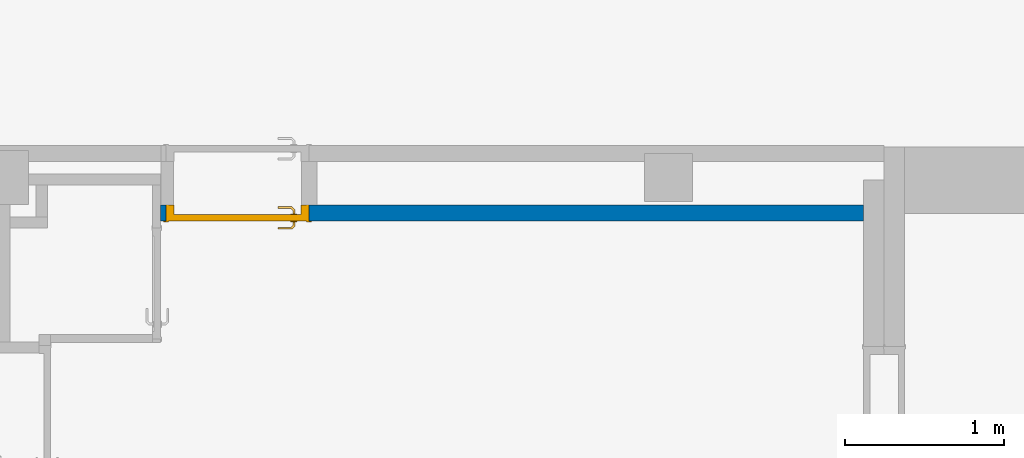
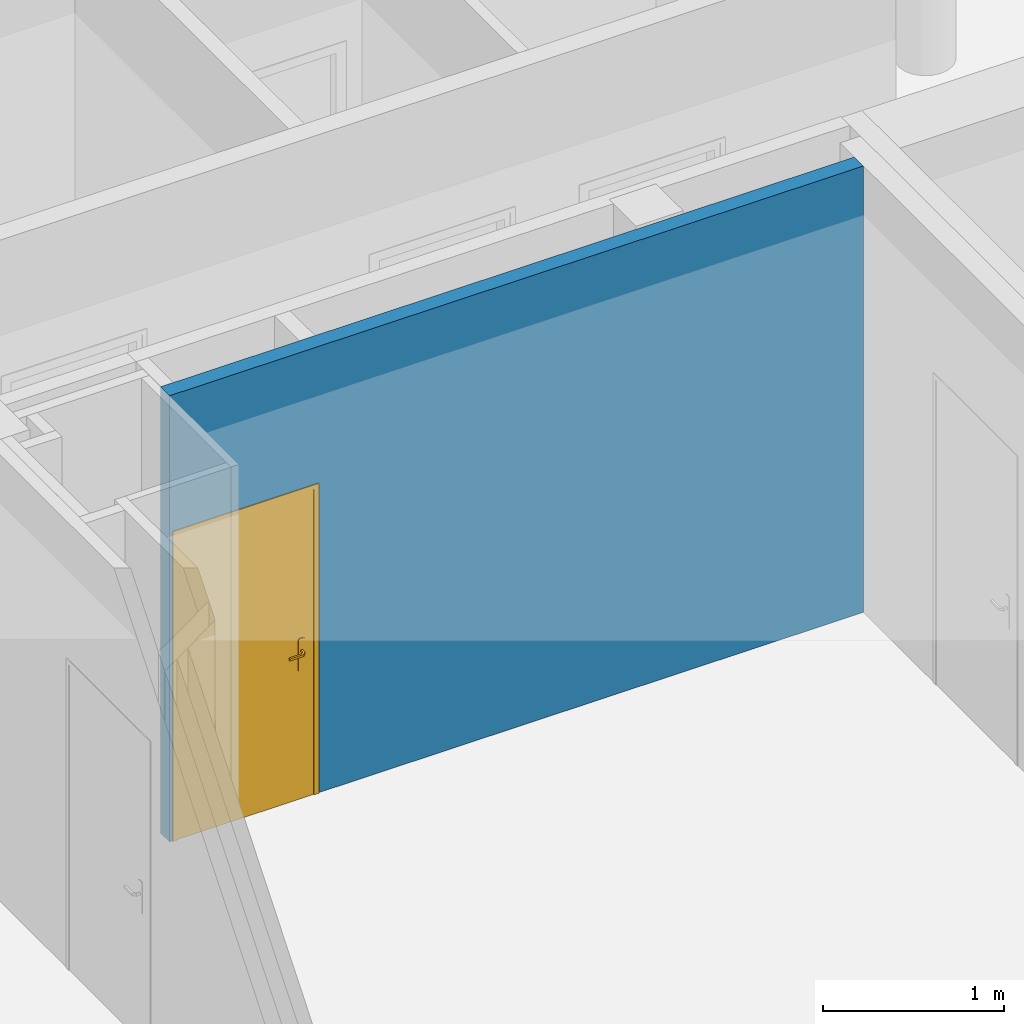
# One storey, part 40 of 97: 1 door, 1 wall, 1 opening.
"""IFC4 building model written with IfcOpenShell, lengths in metres."""

from ifc_helpers import new_model, entity, si_unit, converted_unit, derived_unit, direction, frame, origin, place, context, subcontext, project, spatial, indexed_curve, outline, extrude, polygons, source, transform, mapped, material, material_list, layer, layer_set, constituent, constituent_set, type_object, type_shapes, element, fill, save


model = new_model("IFC4")

# Units and contexts
model_context = context("Model", 3, precision=1e-05, world=origin(), true_north=direction((6.12303176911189e-17, 1.0)))
body_context = subcontext(model_context, "Body", "Model", "MODEL_VIEW")
ifc_project = project(units=[si_unit("LENGTHUNIT", "METRE"), si_unit("AREAUNIT", "SQUARE_METRE"), si_unit("VOLUMEUNIT", "CUBIC_METRE"), converted_unit("PLANEANGLEUNIT", "DEGREE", entity("IfcRatioMeasure", 0.0174532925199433), si_unit("PLANEANGLEUNIT", "RADIAN"), dimensions=[0, 0, 0, 0, 0, 0, 0]), si_unit("MASSUNIT", "GRAM", prefix="KILO"), derived_unit("MASSDENSITYUNIT", [(si_unit("MASSUNIT", "GRAM", prefix="KILO"), 1), (si_unit("LENGTHUNIT", "METRE"), -3)]), derived_unit("MOMENTOFINERTIAUNIT", [(si_unit("LENGTHUNIT", "METRE"), 4)]), si_unit("TIMEUNIT", "SECOND"), si_unit("FREQUENCYUNIT", "HERTZ"), si_unit("THERMODYNAMICTEMPERATUREUNIT", "DEGREE_CELSIUS"), derived_unit("THERMALTRANSMITTANCEUNIT", [(si_unit("MASSUNIT", "GRAM", prefix="KILO"), 1), (si_unit("THERMODYNAMICTEMPERATUREUNIT", "KELVIN"), -1), (si_unit("TIMEUNIT", "SECOND"), -3)]), derived_unit("VOLUMETRICFLOWRATEUNIT", [(si_unit("LENGTHUNIT", "METRE"), 3), (si_unit("TIMEUNIT", "SECOND"), -1)]), si_unit("ELECTRICCURRENTUNIT", "AMPERE"), si_unit("ELECTRICVOLTAGEUNIT", "VOLT"), si_unit("POWERUNIT", "WATT"), si_unit("FORCEUNIT", "NEWTON", prefix="KILO"), si_unit("ILLUMINANCEUNIT", "LUX"), si_unit("LUMINOUSFLUXUNIT", "LUMEN"), si_unit("LUMINOUSINTENSITYUNIT", "CANDELA"), derived_unit("USERDEFINED", [(si_unit("MASSUNIT", "GRAM", prefix="KILO"), -1), (si_unit("LENGTHUNIT", "METRE"), -2), (si_unit("TIMEUNIT", "SECOND"), 3), (si_unit("LUMINOUSFLUXUNIT", "LUMEN"), 1)]), derived_unit("LINEARVELOCITYUNIT", [(si_unit("LENGTHUNIT", "METRE"), 1), (si_unit("TIMEUNIT", "SECOND"), -1)]), si_unit("PRESSUREUNIT", "PASCAL"), derived_unit("USERDEFINED", [(si_unit("LENGTHUNIT", "METRE"), -2), (si_unit("MASSUNIT", "GRAM", prefix="KILO"), 1), (si_unit("TIMEUNIT", "SECOND"), -2)]), derived_unit("LINEARFORCEUNIT", [(si_unit("MASSUNIT", "GRAM", prefix="KILO"), 1), (si_unit("LENGTHUNIT", "METRE"), 1), (si_unit("TIMEUNIT", "SECOND"), -2), (si_unit("LENGTHUNIT", "METRE"), -1)]), derived_unit("PLANARFORCEUNIT", [(si_unit("MASSUNIT", "GRAM", prefix="KILO"), 1), (si_unit("LENGTHUNIT", "METRE"), 1), (si_unit("TIMEUNIT", "SECOND"), -2), (si_unit("LENGTHUNIT", "METRE"), -2)])], contexts=[model_context])

# Site, building, storey
site_placement = place(None, origin())
site = spatial("IfcSite", under=ifc_project, at=site_placement, Name="Default", CompositionType="ELEMENT")
building_placement = place(site_placement, origin())
building = spatial("IfcBuilding", under=site, at=building_placement, Name="HOTEL CONSULAIRE BOULOGNE SUR MER", CompositionType="ELEMENT")
storey_placement = place(building_placement, frame((0.0, 0.0, 3.62152697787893)))
storey = spatial("IfcBuildingStorey", under=building, at=storey_placement, Name="Niveau 1", CompositionType="ELEMENT", Elevation=3.62152697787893)

# Wall, opening, door
ifc_material_1 = material(Name="Mur par défaut", Category="Divers")
ifc_layer = layer(ifc_material_1, 0.1, Name="Mur par défaut", Category="Divers")
ifc_layer_set = layer_set([ifc_layer], Name="Mur de base:Générique - Int. 100 mm")
wall_type = type_object("IfcWallType", Name="Mur de base:Générique - Int. 100 mm", PredefinedType="NOTDEFINED", material=ifc_layer_set)
wall_placement = place(storey_placement, frame((4.1985800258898, -24.240691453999, 0.0), z_axis=(0.0, 0.0, 1.0), x_axis=(-1.0, 0.0, 0.0)))
wall = element("IfcWall", 1, at=wall_placement, inside=storey, type_object=wall_type, material=ifc_layer_set, Name="Mur de base:Générique - Int. 100 mm", ObjectType="Mur de base:Générique - Int. 100 mm", PredefinedType="NOTDEFINED", context=body_context, shape_type="Tessellation", body=[
    polygons([(4.42601369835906, -0.0499999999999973, 0.0), (4.39200000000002, -0.0499999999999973, 0.0), (4.39200000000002, 0.0500000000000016, 0.0), (4.42601369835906, 0.0500000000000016, 0.0), (4.42601369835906, -0.0499999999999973, 3.01021454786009), (4.42401369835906, -0.0499999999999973, 3.01021454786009), (4.34401369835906, -0.0499999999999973, 3.01021454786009), (3.54, -0.0499999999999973, 3.01021454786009), (3.44, -0.0499999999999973, 3.01021454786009), (5.13519157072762e-19, -0.0499999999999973, 3.01021454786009), (5.13519157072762e-19, -0.0499999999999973, 0.0), (3.49200000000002, -0.0499999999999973, 0.0), (3.49200000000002, -0.0499999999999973, 2.075), (4.39200000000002, -0.0499999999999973, 2.075), (-3.6654746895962e-16, 0.0500000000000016, 3.01021454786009), (4.42601369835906, 0.0500000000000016, 3.01021454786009), (4.39200000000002, 0.0500000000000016, 2.075), (3.49200000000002, 0.0500000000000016, 2.075), (3.49200000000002, 0.0500000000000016, 0.0), (-3.6654746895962e-16, 0.0500000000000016, 0.0)], [[[2, 3, 4, 1]], [[18, 17, 14, 13]], [[12, 11, 20, 19]], [[11, 12, 13, 14, 2, 1, 5, 6, 7, 8, 9, 10]], [[4, 3, 17, 18, 19, 20, 15, 16]], [[7, 6, 5, 16, 15, 10, 9, 8]], [[20, 11, 10, 15]], [[17, 3, 2, 14]], [[18, 13, 12, 19]], [[1, 4, 16, 5]]], closed=True),
])
opening_placement = place(wall_placement, frame((3.49200000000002, -0.0499999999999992, 0.0)))
opening = element("IfcOpeningElement", 2, at=opening_placement, cuts=wall, Name="Int. Simple:PP (0.83m x 2.04m):1", ObjectType="Opening", PredefinedType="OPENING", context=body_context, shape_type="SweptSolid", body=[
    extrude(outline(indexed_curve([(0.0, 0.9), (0.0, 0.0), (2.075, 0.0), (2.075, 0.9), (0.0, 0.9)], self_intersect=False)), frame((0.0, 0.0, 0.0), z_axis=(0.0, 1.0, 0.0), x_axis=(0.0, 0.0, 1.0)), (0.0, 0.0, 1.0), 0.1),
])
ifc_material_2 = material(Name="Finition Peinture - Blanc satiné", Category="Peinture")
ifc_constituent_1 = constituent(ifc_material_2, Name="Finition Peinture - Blanc satiné", Category="Matériaux")
ifc_material_3 = material(Name="Bois - Panneau de porte", Category="Bois")
ifc_constituent_2 = constituent(ifc_material_3, Name="Bois - Panneau de porte", Category="Matériaux")
ifc_material_4 = material(Name="Bois - Cadre de porte", Category="Bois")
ifc_constituent_3 = constituent(ifc_material_4, Name="Bois - Cadre de porte", Category="Matériaux")
ifc_constituent_set = constituent_set(constituents=[ifc_constituent_1, ifc_constituent_2, ifc_constituent_3], Name="MaterialConstituentSet")
ifc_material_list = material_list([ifc_material_4, ifc_material_3, ifc_material_4, ifc_material_2])
door_type = type_object("IfcDoorType", Name="Int. Simple:PP (0.83m x 2.04m)", OperationType="NOTDEFINED", PredefinedType="DOOR", material=ifc_material_list)
shared_shape = source(origin(), body_context, "Body", "Tessellation", [
    polygons([(0.895000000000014, -0.00500000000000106, 0.870000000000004), (0.895000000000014, -0.00500000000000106, 1.08), (0.885352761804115, -0.00500000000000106, 1.08399601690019), (0.875000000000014, -0.00500000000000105, 1.08535898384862), (0.864647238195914, -0.00500000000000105, 1.08399601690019), (0.855000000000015, -0.00500000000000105, 1.08), (0.855000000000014, -0.00500000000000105, 0.870000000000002), (0.864647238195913, -0.00500000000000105, 0.866003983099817), (0.875000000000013, -0.00500000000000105, 0.86464101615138), (0.885352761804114, -0.00500000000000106, 0.866003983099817), (0.895000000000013, -1.06594733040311e-15, 0.870000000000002), (0.885352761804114, -1.06594733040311e-15, 0.866003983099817), (0.875000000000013, -1.05748743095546e-15, 0.86464101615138), (0.864647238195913, -1.05748743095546e-15, 0.866003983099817), (0.855000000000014, -1.04902753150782e-15, 0.870000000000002), (0.855000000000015, -1.04902753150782e-15, 1.08), (0.864647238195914, -1.05748743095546e-15, 1.08399601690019), (0.875000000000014, -1.05748743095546e-15, 1.08535898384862), (0.885352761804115, -1.06594733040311e-15, 1.08399601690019), (0.895000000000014, -1.06594733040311e-15, 1.08)], [[[1, 2, 3, 4, 5, 6, 7, 8, 9, 10]], [[20, 11, 12, 13, 14, 15, 16, 17, 18, 19]], [[10, 12, 11, 1]], [[9, 13, 12, 10]], [[8, 14, 13, 9]], [[8, 7, 15, 14]], [[15, 7, 6, 16]], [[5, 17, 16, 6]], [[4, 18, 17, 5]], [[3, 19, 18, 4]], [[3, 2, 20, 19]], [[11, 20, 2, 1]]], closed=True),
    polygons([(0.855000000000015, 0.0399999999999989, 1.08), (0.855000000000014, 0.0399999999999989, 0.870000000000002), (0.864647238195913, 0.0399999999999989, 0.866003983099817), (0.875000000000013, 0.0399999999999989, 0.86464101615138), (0.885352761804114, 0.0399999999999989, 0.866003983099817), (0.895000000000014, 0.0399999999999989, 0.870000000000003), (0.895000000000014, 0.0399999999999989, 1.08), (0.885352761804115, 0.0399999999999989, 1.08399601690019), (0.875000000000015, 0.0399999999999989, 1.08535898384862), (0.864647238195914, 0.0399999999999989, 1.08399601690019), (0.855000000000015, 0.0449999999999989, 1.08), (0.864647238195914, 0.0449999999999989, 1.08399601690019), (0.875000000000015, 0.0449999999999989, 1.08535898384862), (0.885352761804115, 0.0449999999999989, 1.08399601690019), (0.895000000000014, 0.0449999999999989, 1.08), (0.895000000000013, 0.0449999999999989, 0.870000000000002), (0.885352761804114, 0.0449999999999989, 0.866003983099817), (0.875000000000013, 0.0449999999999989, 0.86464101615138), (0.864647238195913, 0.0449999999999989, 0.866003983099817), (0.855000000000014, 0.0449999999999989, 0.870000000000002)], [[[6, 7, 8, 9, 10, 1, 2, 3, 4, 5]], [[13, 14, 15, 16, 17, 18, 19, 20, 11, 12]], [[10, 12, 11, 1]], [[9, 13, 12, 10]], [[8, 14, 13, 9]], [[8, 7, 15, 14]], [[16, 15, 7, 6]], [[5, 17, 16, 6]], [[4, 18, 17, 5]], [[3, 19, 18, 4]], [[3, 2, 20, 19]], [[20, 2, 1, 11]]], closed=True),
    polygons([(0.881000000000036, -0.00500000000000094, 1.00699999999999), (0.881000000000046, -0.00500000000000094, 0.992999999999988), (0.877025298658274, -0.00500000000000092, 0.99221955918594), (0.872974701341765, -0.0050000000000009, 0.992219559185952), (0.868999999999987, -0.00500000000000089, 0.993000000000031), (0.868999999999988, -0.00500000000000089, 1.007), (0.872974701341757, -0.0050000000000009, 1.00778044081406), (0.877025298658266, -0.00500000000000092, 1.00778044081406), (0.868999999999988, -0.0276803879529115, 1.007), (0.872974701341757, -0.0293267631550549, 1.00778044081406), (0.877025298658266, -0.0310045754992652, 1.00778044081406), (0.881000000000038, -0.0326509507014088, 1.007), (0.868999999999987, -0.0276803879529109, 0.993000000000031), (0.881000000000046, -0.0326509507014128, 0.992999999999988), (0.877025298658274, -0.0310045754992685, 0.99221955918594), (0.872974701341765, -0.0293267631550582, 0.992219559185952), (0.85765222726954, -0.0390281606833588, 1.007), (0.859298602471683, -0.0430028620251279, 1.00778044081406), (0.860976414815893, -0.0470534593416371, 1.00778044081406), (0.862622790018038, -0.051028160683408, 1.007), (0.857652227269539, -0.0390281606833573, 0.993000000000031), (0.862622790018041, -0.0510281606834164, 0.992999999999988), (0.860976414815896, -0.0470534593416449, 0.99221955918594), (0.859298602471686, -0.0430028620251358, 0.992219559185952), (0.774981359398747, -0.0510281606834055, 1.007), (0.774981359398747, -0.0470534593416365, 1.00778044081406), (0.774981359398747, -0.0430028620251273, 1.00778044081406), (0.774981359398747, -0.0390281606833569, 1.00699999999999), (0.774981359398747, -0.0390281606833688, 0.993000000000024), (0.774981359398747, -0.0430028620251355, 0.992219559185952), (0.774981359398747, -0.0470534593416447, 0.99221955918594), (0.774981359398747, -0.0510281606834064, 0.992999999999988), (0.822692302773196, -0.051028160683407, 1.007), (0.81713998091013, -0.045028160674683, 1.0078786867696), (0.816316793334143, -0.039028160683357, 1.007), (0.822692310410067, -0.0510281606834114, 0.992999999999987), (0.817139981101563, -0.0450281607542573, 0.992121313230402), (0.816316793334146, -0.0390281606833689, 0.993000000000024)], [[[7, 8, 1, 2, 3, 4, 5, 6]], [[17, 21, 38, 29, 28, 35]], [[1, 8, 11, 12]], [[8, 7, 10, 18, 19, 11]], [[7, 6, 9, 10]], [[13, 9, 6, 5]], [[25, 26, 27, 28, 29, 30, 31, 32]], [[4, 16, 13, 5]], [[4, 3, 15, 23, 24, 16]], [[2, 14, 15, 3]], [[12, 14, 2, 1]], [[12, 11, 19, 20]], [[10, 9, 17, 18]], [[21, 17, 9, 13]], [[13, 16, 24, 21]], [[15, 14, 22, 23]], [[20, 22, 14, 12]], [[34, 26, 33]], [[33, 26, 25]], [[33, 20, 19]], [[18, 35, 34]], [[35, 18, 17]], [[28, 27, 35]], [[34, 27, 26]], [[34, 35, 27]], [[34, 33, 19]], [[18, 34, 19]], [[37, 30, 38]], [[31, 37, 36]], [[24, 38, 21]], [[30, 29, 38]], [[31, 36, 32]], [[36, 23, 22]], [[37, 23, 36]], [[37, 24, 23]], [[37, 38, 24]], [[30, 37, 31]], [[22, 20, 33, 25, 32, 36]]], closed=True),
    polygons([(0.868999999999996, 0.0449999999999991, 0.993000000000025), (0.872974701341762, 0.0449999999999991, 0.992219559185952), (0.877025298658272, 0.0449999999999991, 0.99221955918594), (0.881000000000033, 0.044999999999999, 0.992999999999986), (0.881000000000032, 0.044999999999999, 1.007), (0.877025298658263, 0.0449999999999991, 1.00778044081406), (0.872974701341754, 0.0449999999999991, 1.00778044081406), (0.868999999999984, 0.0449999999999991, 1.007), (0.868999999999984, 0.067485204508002, 1.007), (0.868999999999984, 0.0674852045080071, 0.993000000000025), (0.881000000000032, 0.0724557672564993, 1.007), (0.877025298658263, 0.070809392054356, 1.00778044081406), (0.872974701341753, 0.0691315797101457, 1.00778044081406), (0.881000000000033, 0.0724557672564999, 0.992999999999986), (0.872974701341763, 0.0691315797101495, 0.992219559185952), (0.877025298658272, 0.0708093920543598, 0.99221955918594), (0.857514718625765, 0.0789704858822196, 1.007), (0.857514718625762, 0.0789704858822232, 0.993000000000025), (0.862485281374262, 0.0909704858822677, 1.007), (0.860838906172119, 0.0869957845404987, 1.00778044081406), (0.859161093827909, 0.0829451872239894, 1.00778044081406), (0.862485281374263, 0.0909704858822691, 0.992999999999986), (0.859161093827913, 0.0829451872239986, 0.992219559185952), (0.860838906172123, 0.0869957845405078, 0.99221955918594), (0.77495421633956, 0.0789704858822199, 0.993000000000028), (0.77495421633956, 0.0789704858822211, 1.007), (0.77495421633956, 0.0829451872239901, 1.00778044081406), (0.77495421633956, 0.0869957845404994, 1.00778044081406), (0.77495421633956, 0.0909704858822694, 1.007), (0.77495421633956, 0.0909704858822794, 0.992999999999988), (0.77495421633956, 0.086995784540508, 0.99221955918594), (0.77495421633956, 0.0829451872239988, 0.992219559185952), (0.822554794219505, 0.0909704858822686, 1.007), (0.817057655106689, 0.0849704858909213, 1.0078786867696), (0.816234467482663, 0.0789704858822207, 1.007), (0.822554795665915, 0.0909704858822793, 0.992999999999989), (0.817057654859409, 0.0849704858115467, 0.992121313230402), (0.816234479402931, 0.0789704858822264, 0.993000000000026)], [[[2, 3, 4, 5, 6, 7, 8, 1]], [[18, 17, 35, 26, 25, 38]], [[9, 10, 1, 8]], [[27, 28, 29, 30, 31, 32, 25, 26]], [[7, 13, 9, 8]], [[7, 6, 12, 20, 21, 13]], [[5, 11, 12, 6]], [[11, 5, 4, 14]], [[4, 3, 16, 14]], [[3, 2, 15, 23, 24, 16]], [[2, 1, 10, 15]], [[17, 18, 10, 9]], [[9, 13, 21, 17]], [[11, 19, 20, 12]], [[22, 19, 11, 14]], [[14, 16, 24, 22]], [[15, 10, 18, 23]], [[34, 27, 35]], [[28, 34, 33]], [[21, 35, 17]], [[27, 26, 35]], [[28, 33, 29]], [[33, 20, 19]], [[34, 20, 33]], [[34, 21, 20]], [[34, 35, 21]], [[27, 34, 28]], [[19, 22, 36, 30, 29, 33]], [[37, 31, 36]], [[36, 31, 30]], [[36, 22, 24]], [[23, 38, 37]], [[38, 23, 18]], [[25, 32, 38]], [[37, 32, 31]], [[37, 38, 32]], [[37, 36, 24]], [[23, 37, 24]]], closed=True),
    polygons([(0.935000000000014, 0.04, 2.04), (0.935000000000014, 0.04, 0.0), (0.105000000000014, 0.04, 0.0), (0.105000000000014, 0.04, 2.04), (0.935000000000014, 3.38395977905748e-17, 2.04), (0.105000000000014, 3.38395977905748e-17, 2.04), (0.105000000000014, 3.38395977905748e-17, 0.0), (0.935000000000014, 3.38395977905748e-17, 0.0)], [[[3, 4, 1, 2]], [[5, 6, 7, 8]], [[5, 1, 4, 6]], [[6, 4, 3, 7]], [[8, 7, 3, 2]], [[8, 2, 1, 5]]], closed=True),
    polygons([(0.970000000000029, 0.0, 0.0), (0.935000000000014, 0.0, 0.0), (0.935000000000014, 0.040000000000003, 0.0), (0.920000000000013, 0.040000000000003, 0.0), (0.920000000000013, 0.100000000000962, 0.0), (0.970000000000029, 0.100000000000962, 0.0), (0.970000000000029, 0.100000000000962, 2.07500000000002), (0.970000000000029, 0.0, 2.07500000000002), (0.920000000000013, 0.100000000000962, 2.025), (0.120000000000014, 0.100000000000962, 2.025), (0.120000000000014, 0.100000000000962, 6.02669015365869e-24), (0.0699999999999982, 0.100000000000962, 9.23443718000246e-25), (0.0699999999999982, 0.100000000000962, 2.07500000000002), (0.920000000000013, 0.040000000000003, 2.025), (0.935000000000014, 0.040000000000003, 2.04), (0.105000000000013, 0.040000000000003, 2.04), (0.105000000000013, 0.040000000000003, 1.51399294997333e-24), (0.120000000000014, 0.040000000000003, 1.99209609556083e-25), (0.120000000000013, 0.040000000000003, 2.025), (0.935000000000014, 0.0, 2.04), (0.0699999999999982, 0.0, 2.07500000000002), (0.0699999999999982, 0.0, 1.81925185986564e-24), (0.105000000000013, 0.0, 3.40121094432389e-24), (0.105000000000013, 0.0, 2.04)], [[[5, 6, 1, 2, 3, 4]], [[17, 23, 22, 12, 11, 18]], [[19, 10, 9, 14]], [[24, 16, 15, 20]], [[7, 8, 1, 6]], [[18, 11, 10, 19]], [[17, 16, 24, 23]], [[9, 10, 11, 12, 13, 7, 6, 5]], [[14, 9, 5, 4]], [[15, 3, 2, 20]], [[12, 22, 21, 13]], [[19, 14, 4, 3, 15, 16, 17, 18]], [[24, 20, 2, 1, 8, 21, 22, 23]], [[13, 21, 8, 7]]], closed=True),
    polygons([(0.955000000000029, 0.100000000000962, 1.35358391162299e-16), (0.955000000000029, 0.105000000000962, 1.35358391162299e-16), (0.985000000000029, 0.105000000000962, 1.35358391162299e-16), (0.985000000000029, 0.100000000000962, 1.35358391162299e-16), (0.985000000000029, 0.100000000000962, 2.09000000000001), (0.0550000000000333, 0.100000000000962, 2.09000000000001), (0.0550000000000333, 0.100000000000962, -5.44393448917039e-24), (0.0850000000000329, 0.100000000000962, 5.09144898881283e-24), (0.0850000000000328, 0.100000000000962, 2.06000000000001), (0.955000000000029, 0.100000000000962, 2.06000000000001), (0.985000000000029, 0.105000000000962, 2.09000000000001), (0.955000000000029, 0.105000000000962, 2.06000000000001), (0.0850000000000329, 0.105000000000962, 2.06000000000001), (0.0850000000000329, 0.105000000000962, -1.89153776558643e-24), (0.055000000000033, 0.105000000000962, 5.03766794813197e-24), (0.0550000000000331, 0.105000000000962, 2.09000000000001)], [[[2, 3, 4, 1]], [[7, 15, 14, 8]], [[13, 12, 10, 9]], [[9, 10, 1, 4, 5, 6, 7, 8]], [[11, 5, 4, 3]], [[8, 14, 13, 9]], [[12, 13, 14, 15, 16, 11, 3, 2]], [[10, 12, 2, 1]], [[15, 7, 6, 16]], [[16, 6, 5, 11]]], closed=True),
    polygons([(0.955000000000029, -0.005, 1.35358391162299e-16), (0.955000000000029, 0.0, 1.35358391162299e-16), (0.985000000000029, 0.0, 1.35358391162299e-16), (0.985000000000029, -0.005, 1.35358391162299e-16), (0.0850000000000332, -0.005, -1.35358391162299e-16), (0.0550000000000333, -0.005, -1.35358391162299e-16), (0.055000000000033, 0.0, -1.35358391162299e-16), (0.0850000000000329, 0.0, -1.35358391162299e-16), (0.985000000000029, -0.005, 2.09000000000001), (0.0550000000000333, -0.005, 2.09000000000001), (0.0850000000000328, -0.005, 2.06000000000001), (0.955000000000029, -0.005, 2.06000000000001), (0.985000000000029, 0.0, 2.09000000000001), (0.955000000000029, 0.0, 2.06000000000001), (0.0850000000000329, 0.0, 2.06000000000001), (0.0550000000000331, 0.0, 2.09000000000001)], [[[2, 3, 4, 1]], [[6, 7, 8, 5]], [[11, 15, 14, 12]], [[11, 12, 1, 4, 9, 10, 6, 5]], [[13, 9, 4, 3]], [[5, 8, 15, 11]], [[14, 15, 8, 7, 16, 13, 3, 2]], [[12, 14, 2, 1]], [[7, 6, 10, 16]], [[16, 10, 9, 13]]], closed=True),
])
type_shapes(door_type, [shared_shape])
door_placement = place(opening_placement, frame((0.970000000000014, 0.0999999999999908, 0.0), z_axis=(0.0, 0.0, 1.0), x_axis=(-1.0, 0.0, 0.0)))
door = element("IfcDoor", 3, at=door_placement, inside=storey, type_object=door_type, material=ifc_constituent_set, Name="Int. Simple:PP (0.83m x 2.04m)", ObjectType="Int. Simple:PP (0.83m x 2.04m)", OperationType="NOTDEFINED", OverallHeight=2.075, OverallWidth=0.9, PredefinedType="DOOR", context=body_context, shape_type="MappedRepresentation", body=[
    mapped(shared_shape, transform((0.0, 0.0, 0.0), scale=1.0)),
])
fill(opening, door)

save(model, "model.ifc")
